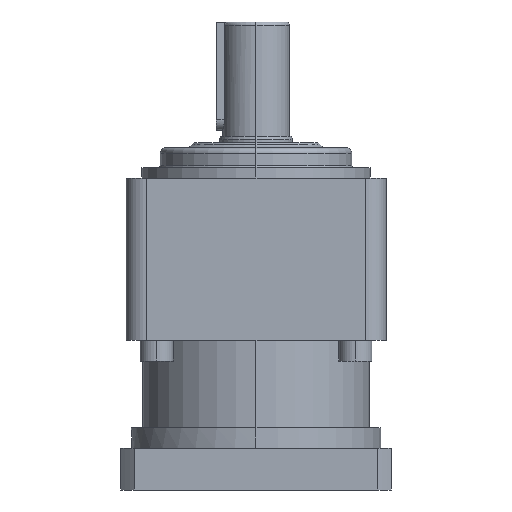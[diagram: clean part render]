
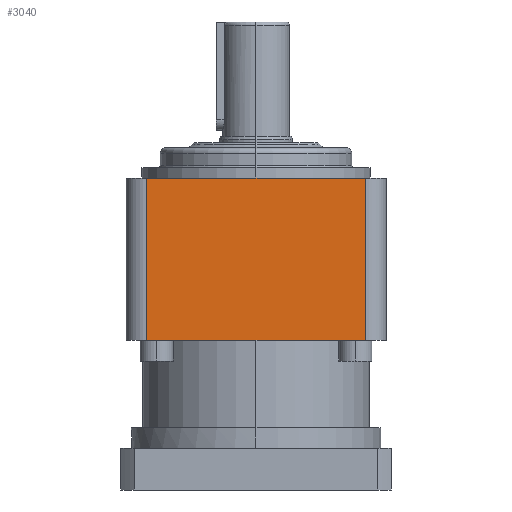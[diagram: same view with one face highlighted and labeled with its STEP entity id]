
A CAD part, left-side view. The second image highlights one B-rep face of the part: STEP entity #3040.
In plain terms, the highlighted planar face has unit normal (-1, 0, 0).
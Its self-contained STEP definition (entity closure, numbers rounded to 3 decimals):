
#54 = DIRECTION ( 'NONE',  ( 0., -1., 0. ) ) ;
#257 = DIRECTION ( 'NONE',  ( 0., 0., 1. ) ) ;
#295 = VERTEX_POINT ( 'NONE', #1342 ) ;
#405 = ORIENTED_EDGE ( 'NONE', *, *, #1741, .T. ) ;
#876 = LINE ( 'NONE', #3056, #2258 ) ;
#903 = EDGE_CURVE ( 'NONE', #3487, #3222, #876, .T. ) ;
#907 = VECTOR ( 'NONE', #2380, 1000. ) ;
#917 = LINE ( 'NONE', #1346, #2295 ) ;
#1185 = EDGE_LOOP ( 'NONE', ( #3597, #1554, #405, #3574 ) ) ;
#1342 = CARTESIAN_POINT ( 'NONE',  ( -62.5, -52.5, -78. ) ) ;
#1346 = CARTESIAN_POINT ( 'NONE',  ( -62.5, -52.5, -78. ) ) ;
#1554 = ORIENTED_EDGE ( 'NONE', *, *, #2830, .F. ) ;
#1677 = DIRECTION ( 'NONE',  ( 0., 0., 1. ) ) ;
#1741 = EDGE_CURVE ( 'NONE', #3334, #295, #3661, .T. ) ;
#2076 = CARTESIAN_POINT ( 'NONE',  ( -62.5, -52.5, -78. ) ) ;
#2258 = VECTOR ( 'NONE', #54, 1000. ) ;
#2275 = LINE ( 'NONE', #2929, #3656 ) ;
#2295 = VECTOR ( 'NONE', #1677, 1000. ) ;
#2380 = DIRECTION ( 'NONE',  ( 0., -1., 0. ) ) ;
#2435 = AXIS2_PLACEMENT_3D ( 'NONE', #3733, #4051, #257 ) ;
#2511 = CARTESIAN_POINT ( 'NONE',  ( -62.5, -52.5, 0. ) ) ;
#2830 = EDGE_CURVE ( 'NONE', #3334, #3487, #2275, .T. ) ;
#2852 = EDGE_CURVE ( 'NONE', #295, #3222, #917, .T. ) ;
#2924 = CARTESIAN_POINT ( 'NONE',  ( -62.5, 52.5, -78. ) ) ;
#2929 = CARTESIAN_POINT ( 'NONE',  ( -62.5, 52.5, -78. ) ) ;
#3040 = ADVANCED_FACE ( 'NONE', ( #3743 ), #3426, .T. ) ;
#3056 = CARTESIAN_POINT ( 'NONE',  ( -62.5, -52.5, 0. ) ) ;
#3222 = VERTEX_POINT ( 'NONE', #2511 ) ;
#3255 = DIRECTION ( 'NONE',  ( 0., 0., 1. ) ) ;
#3334 = VERTEX_POINT ( 'NONE', #2924 ) ;
#3426 = PLANE ( 'NONE',  #2435 ) ;
#3487 = VERTEX_POINT ( 'NONE', #3890 ) ;
#3574 = ORIENTED_EDGE ( 'NONE', *, *, #2852, .T. ) ;
#3597 = ORIENTED_EDGE ( 'NONE', *, *, #903, .F. ) ;
#3656 = VECTOR ( 'NONE', #3255, 1000. ) ;
#3661 = LINE ( 'NONE', #2076, #907 ) ;
#3733 = CARTESIAN_POINT ( 'NONE',  ( -62.5, -52.5, -78. ) ) ;
#3743 = FACE_OUTER_BOUND ( 'NONE', #1185, .T. ) ;
#3890 = CARTESIAN_POINT ( 'NONE',  ( -62.5, 52.5, 0. ) ) ;
#4051 = DIRECTION ( 'NONE',  ( -1., 0., 0. ) ) ;
